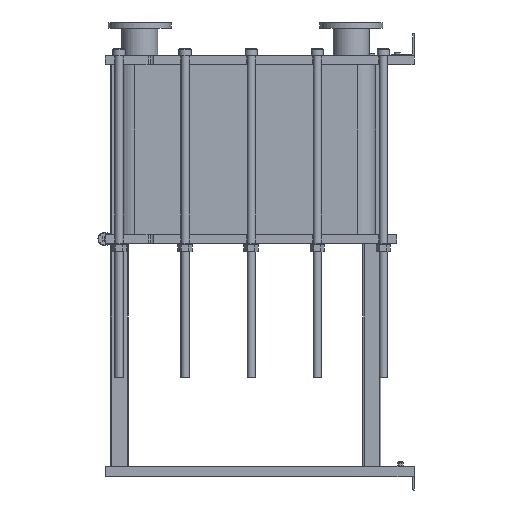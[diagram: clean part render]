
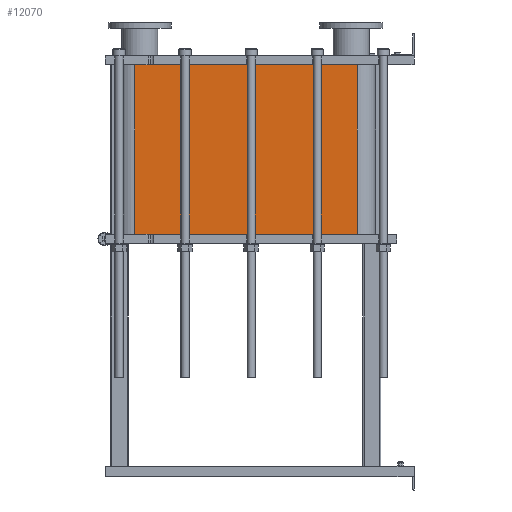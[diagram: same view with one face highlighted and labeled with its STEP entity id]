
A CAD part, left-side view. The second image highlights one B-rep face of the part: STEP entity #12070.
In plain terms, the highlighted planar face has unit normal (-1, 0, 0).
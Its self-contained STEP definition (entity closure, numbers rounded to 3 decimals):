
#1064=LINE('',#21140,#2164);
#1065=LINE('',#21144,#2165);
#1066=LINE('',#21146,#2166);
#1067=LINE('',#21147,#2167);
#2164=VECTOR('',#15790,10.);
#2165=VECTOR('',#15795,10.);
#2166=VECTOR('',#15796,10.);
#2167=VECTOR('',#15797,10.);
#3304=FACE_OUTER_BOUND('',#4091,.T.);
#4091=EDGE_LOOP('',(#9793,#9794,#9795,#9796));
#5677=VERTEX_POINT('',#21137);
#5678=VERTEX_POINT('',#21139);
#5679=VERTEX_POINT('',#21143);
#5680=VERTEX_POINT('',#21145);
#7118=EDGE_CURVE('',#5678,#5677,#1064,.T.);
#7120=EDGE_CURVE('',#5677,#5679,#1065,.T.);
#7121=EDGE_CURVE('',#5680,#5679,#1066,.T.);
#7122=EDGE_CURVE('',#5680,#5678,#1067,.T.);
#9793=ORIENTED_EDGE('',*,*,#7120,.T.);
#9794=ORIENTED_EDGE('',*,*,#7121,.F.);
#9795=ORIENTED_EDGE('',*,*,#7122,.T.);
#9796=ORIENTED_EDGE('',*,*,#7118,.T.);
#11441=PLANE('',#13191);
#12070=ADVANCED_FACE('',(#3304),#11441,.T.);
#13191=AXIS2_PLACEMENT_3D('',#21142,#15793,#15794);
#15790=DIRECTION('',(0.,0.,-1.));
#15793=DIRECTION('center_axis',(-1.,0.,0.));
#15794=DIRECTION('ref_axis',(0.,1.,0.));
#15795=DIRECTION('',(0.,-1.,0.));
#15796=DIRECTION('',(0.,0.,-1.));
#15797=DIRECTION('',(0.,1.,0.));
#21137=CARTESIAN_POINT('',(-248.152,1243.818,-755.55));
#21139=CARTESIAN_POINT('',(-248.152,1243.818,0.));
#21140=CARTESIAN_POINT('',(-248.152,1243.818,0.));
#21142=CARTESIAN_POINT('Origin',(-248.152,251.818,0.));
#21143=CARTESIAN_POINT('',(-248.152,251.818,-755.55));
#21144=CARTESIAN_POINT('',(-248.152,499.818,-755.55));
#21145=CARTESIAN_POINT('',(-248.152,251.818,0.));
#21146=CARTESIAN_POINT('',(-248.152,251.818,0.));
#21147=CARTESIAN_POINT('',(-248.152,251.818,0.));
